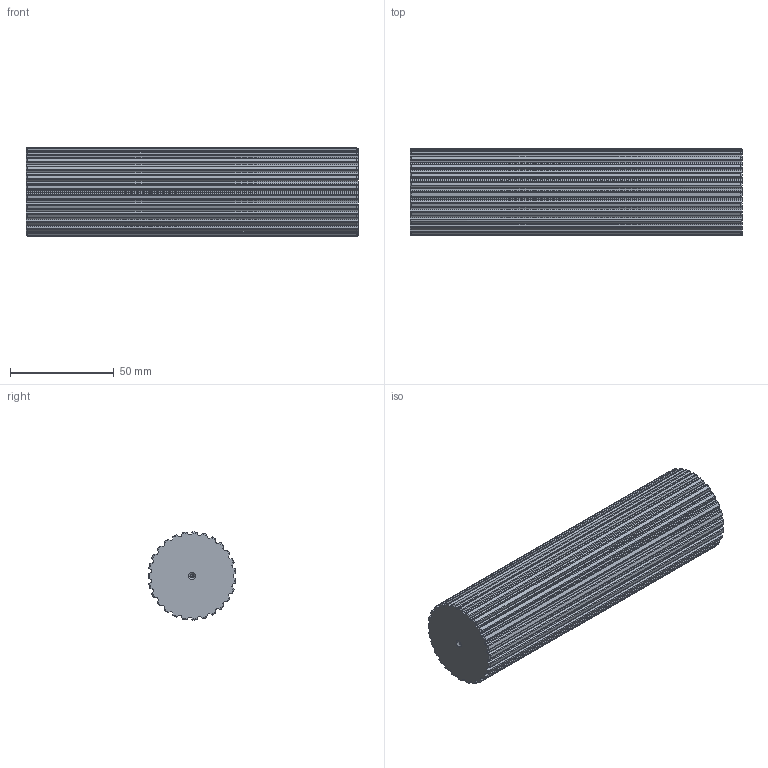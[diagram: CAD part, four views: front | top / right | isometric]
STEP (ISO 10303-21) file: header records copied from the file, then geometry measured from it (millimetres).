
FILE_DESCRIPTION(('STEP AP203'),'1');
FILE_NAME('bart_27.stp','2022-04-12T14:02:12',('TraceParts'),('TraceParts S.A.'),'Spatial InterOp 3D',' ',' ');
FILE_SCHEMA(('CONFIG_CONTROL_DESIGN'));
Length unit declared in the file: millimetre
Products named in the file (1): 1
Bounding box: 160 x 42.4 x 42.46 mm (x, y, z)
Volume: 214581.9 mm3; surface area: 29619.1 mm2
Topology: 1 solids, 1 shells, 286 faces, 844 edges, 558 vertices
Faces by surface type: cylinder 166, cone 64, plane 56
Entity records: 10274 total; most frequent: CARTESIAN_POINT 2873, ORIENTED_EDGE 1680, DIRECTION 1484, EDGE_CURVE 840, AXIS2_PLACEMENT_3D 573, VERTEX_POINT 558, LINE 338, VECTOR 338
